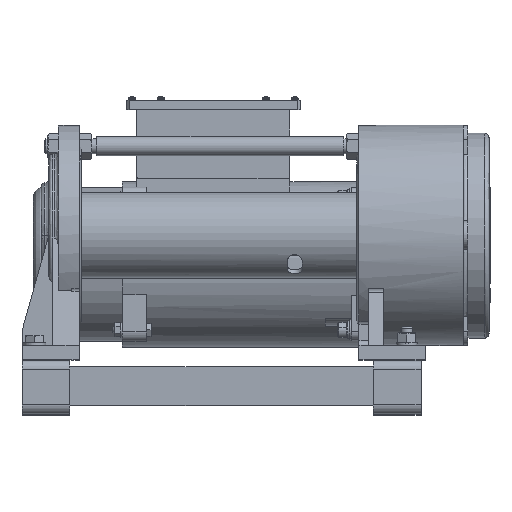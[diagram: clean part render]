
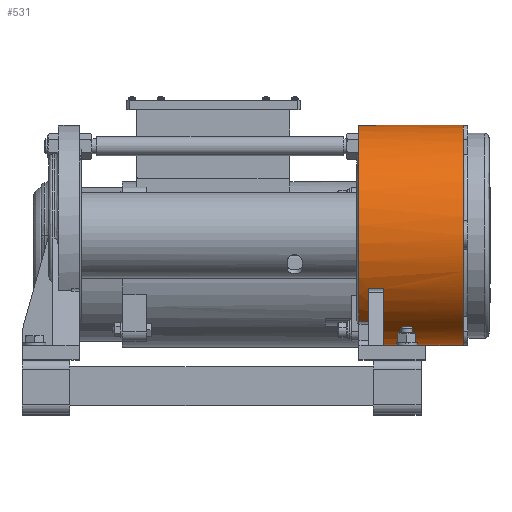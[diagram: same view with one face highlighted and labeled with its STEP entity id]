
A CAD part, top view. The second image highlights one B-rep face of the part: STEP entity #531.
In plain terms, the highlighted cylindrical face has radius 115 mm (diameter 230 mm), a partial arc.
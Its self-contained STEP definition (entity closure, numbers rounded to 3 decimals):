
#531=ADVANCED_FACE('',(#6921),#6920,.T.);
#6920=CYLINDRICAL_SURFACE('',#27111,115.);
#6921=FACE_OUTER_BOUND('',#27112,.T.);
#27108=CARTESIAN_POINT('',(1001.323,130.,1078.029));
#27109=DIRECTION('',(-1.,0.,0.));
#27110=DIRECTION('',(0.,-1.,0.));
#27111=AXIS2_PLACEMENT_3D('',#27108,#27109,#27110);
#27112=EDGE_LOOP('',(#42550,#42551,#42552,#42553,#42554,#42555,#42556,#42557,#42558,#42559,#42560,#42561,#42562,#42563));
#42550=ORIENTED_EDGE('',*,*,#53070,.T.);
#42551=ORIENTED_EDGE('',*,*,#51594,.F.);
#42552=ORIENTED_EDGE('',*,*,#53071,.F.);
#42553=ORIENTED_EDGE('',*,*,#53072,.F.);
#42554=ORIENTED_EDGE('',*,*,#51616,.F.);
#42555=ORIENTED_EDGE('',*,*,#53073,.F.);
#42556=ORIENTED_EDGE('',*,*,#51676,.F.);
#42557=ORIENTED_EDGE('',*,*,#51635,.F.);
#42558=ORIENTED_EDGE('',*,*,#53074,.T.);
#42559=ORIENTED_EDGE('',*,*,#51757,.F.);
#42560=ORIENTED_EDGE('',*,*,#51748,.T.);
#42561=ORIENTED_EDGE('',*,*,#51754,.T.);
#42562=ORIENTED_EDGE('',*,*,#51624,.T.);
#42563=ORIENTED_EDGE('',*,*,#53075,.F.);
#51594=EDGE_CURVE('',#58201,#58209,#58210,.T.);
#51616=EDGE_CURVE('',#58353,#58360,#58361,.T.);
#51624=EDGE_CURVE('',#58415,#58416,#58417,.T.);
#51635=EDGE_CURVE('',#58486,#58493,#58494,.T.);
#51676=EDGE_CURVE('',#58493,#58769,#58770,.T.);
#51748=EDGE_CURVE('',#59259,#59252,#59260,.T.);
#51754=EDGE_CURVE('',#59252,#58415,#59297,.T.);
#51757=EDGE_CURVE('',#59259,#59304,#59317,.T.);
#53070=EDGE_CURVE('',#58872,#58209,#68160,.T.);
#53071=EDGE_CURVE('',#68166,#58201,#68167,.T.);
#53072=EDGE_CURVE('',#58360,#68166,#68173,.T.);
#53073=EDGE_CURVE('',#58769,#58353,#68179,.T.);
#53074=EDGE_CURVE('',#58486,#59304,#68185,.T.);
#53075=EDGE_CURVE('',#58872,#58416,#68191,.T.);
#58201=VERTEX_POINT('',#95603);
#58209=VERTEX_POINT('',#95609);
#58210=CIRCLE('',#95613,115.);
#58353=VERTEX_POINT('',#95701);
#58360=VERTEX_POINT('',#95705);
#58361=CIRCLE('',#95709,115.);
#58415=VERTEX_POINT('',#95741);
#58416=VERTEX_POINT('',#95742);
#58417=CIRCLE('',#95746,115.);
#58486=VERTEX_POINT('',#95787);
#58493=VERTEX_POINT('',#95792);
#58494=LINE('',#95793,#95794);
#58769=VERTEX_POINT('',#95958);
#58770=CIRCLE('',#95962,115.);
#58872=VERTEX_POINT('',#96019);
#59252=VERTEX_POINT('',#96246);
#59259=VERTEX_POINT('',#96251);
#59260=CIRCLE('',#96255,115.);
#59297=LINE('',#96273,#96274);
#59304=VERTEX_POINT('',#96277);
#59317=LINE('',#96285,#96286);
#68160=LINE('',#101901,#101902);
#68166=VERTEX_POINT('',#101904);
#68167=CIRCLE('',#101908,115.);
#68173=CIRCLE('',#101912,115.);
#68179=LINE('',#101913,#101914);
#68185=CIRCLE('',#101919,115.);
#68191=LINE('',#101920,#101921);
#95603=CARTESIAN_POINT('',(1019.323,15.144,1083.779));
#95609=CARTESIAN_POINT('',(1019.323,15.,1078.029));
#95610=CARTESIAN_POINT('',(1019.323,130.,1078.029));
#95611=DIRECTION('',(1.,0.,0.));
#95612=DIRECTION('',(0.,-1.,0.));
#95613=AXIS2_PLACEMENT_3D('',#95610,#95611,#95612);
#95701=CARTESIAN_POINT('',(1019.323,245.,1078.029));
#95705=CARTESIAN_POINT('',(1019.323,244.856,1083.779));
#95706=CARTESIAN_POINT('',(1019.323,130.,1078.029));
#95707=DIRECTION('',(1.,0.,0.));
#95708=DIRECTION('',(0.,-1.,0.));
#95709=AXIS2_PLACEMENT_3D('',#95706,#95707,#95708);
#95741=CARTESIAN_POINT('',(934.323,40.228,1149.904));
#95742=CARTESIAN_POINT('',(934.323,15.,1078.029));
#95743=CARTESIAN_POINT('',(934.323,130.,1078.029));
#95744=DIRECTION('',(1.,0.,0.));
#95745=DIRECTION('',(0.,1.,0.));
#95746=AXIS2_PLACEMENT_3D('',#95743,#95744,#95745);
#95787=CARTESIAN_POINT('',(920.323,40.228,1149.904));
#95792=CARTESIAN_POINT('',(910.323,40.228,1149.904));
#95793=CARTESIAN_POINT('',(920.323,40.228,1149.904));
#95794=VECTOR('',#95795,10.);
#95795=DIRECTION('',(-1.,0.,0.));
#95958=CARTESIAN_POINT('',(910.323,245.,1078.029));
#95959=CARTESIAN_POINT('',(910.323,130.,1078.029));
#95960=DIRECTION('',(-1.,0.,0.));
#95961=DIRECTION('',(0.,1.,0.));
#95962=AXIS2_PLACEMENT_3D('',#95959,#95960,#95961);
#96019=CARTESIAN_POINT('',(980.323,15.,1078.029));
#96246=CARTESIAN_POINT('',(936.323,40.228,1149.904));
#96251=CARTESIAN_POINT('',(936.323,74.243,1178.608));
#96252=CARTESIAN_POINT('',(936.323,130.,1078.029));
#96253=DIRECTION('',(1.,0.,0.));
#96254=DIRECTION('',(0.,-1.,0.));
#96255=AXIS2_PLACEMENT_3D('',#96252,#96253,#96254);
#96273=CARTESIAN_POINT('',(936.323,40.228,1149.904));
#96274=VECTOR('',#96275,2.);
#96275=DIRECTION('',(-1.,0.,0.));
#96277=CARTESIAN_POINT('',(920.323,74.243,1178.608));
#96285=CARTESIAN_POINT('',(936.323,74.243,1178.608));
#96286=VECTOR('',#96287,16.);
#96287=DIRECTION('',(-1.,0.,0.));
#101901=CARTESIAN_POINT('',(980.323,15.,1078.029));
#101902=VECTOR('',#101903,39.);
#101903=DIRECTION('',(1.,0.,0.));
#101904=CARTESIAN_POINT('',(1019.323,130.,1193.029));
#101905=CARTESIAN_POINT('',(1019.323,130.,1078.029));
#101906=DIRECTION('',(1.,0.,0.));
#101907=DIRECTION('',(0.,-1.,0.));
#101908=AXIS2_PLACEMENT_3D('',#101905,#101906,#101907);
#101909=CARTESIAN_POINT('',(1019.323,130.,1078.029));
#101910=DIRECTION('',(1.,0.,0.));
#101911=DIRECTION('',(0.,-1.,0.));
#101912=AXIS2_PLACEMENT_3D('',#101909,#101910,#101911);
#101913=CARTESIAN_POINT('',(910.323,245.,1078.029));
#101914=VECTOR('',#101915,109.);
#101915=DIRECTION('',(1.,0.,0.));
#101916=CARTESIAN_POINT('',(920.323,130.,1078.029));
#101917=DIRECTION('',(-1.,0.,0.));
#101918=DIRECTION('',(0.,1.,0.));
#101919=AXIS2_PLACEMENT_3D('',#101916,#101917,#101918);
#101920=CARTESIAN_POINT('',(980.323,15.,1078.029));
#101921=VECTOR('',#101922,46.);
#101922=DIRECTION('',(-1.,0.,0.));
